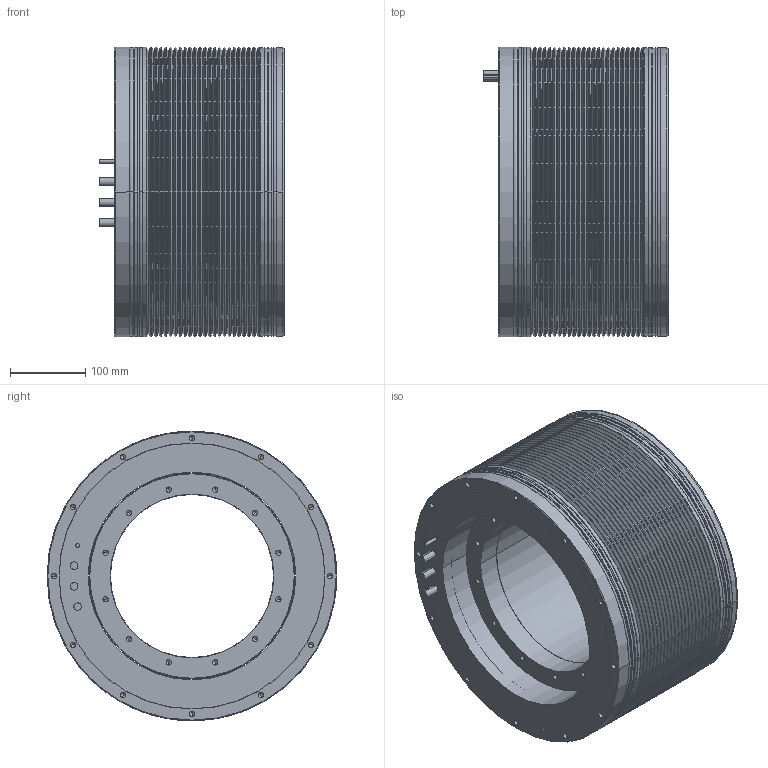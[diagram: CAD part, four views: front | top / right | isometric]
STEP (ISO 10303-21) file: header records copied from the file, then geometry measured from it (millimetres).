
FILE_DESCRIPTION((''),'2;1');
FILE_NAME('TK360','2017-10-30T',('stefanos'),(''),'CREO PARAMETRIC BY PTC INC, 2015480','CREO PARAMETRIC BY PTC INC, 2015480','');
FILE_SCHEMA(('CONFIG_CONTROL_DESIGN'));
Length unit declared in the file: millimetre
Products named in the file (1): TK360
Bounding box: 245 x 384 x 384 mm (x, y, z)
Volume: 15722632 mm3; surface area: 1987646.6 mm2
Topology: 9 solids, 9 shells, 493 faces, 1058 edges, 566 vertices
Faces by surface type: cylinder 236, cone 188, plane 37, torus 16, revolution 16
Entity records: 14172 total; most frequent: CARTESIAN_POINT 3565, DIRECTION 2454, ORIENTED_EDGE 1972, AXIS2_PLACEMENT_3D 1007, EDGE_CURVE 986, VERTEX_POINT 566, EDGE_LOOP 566, CIRCLE 530
